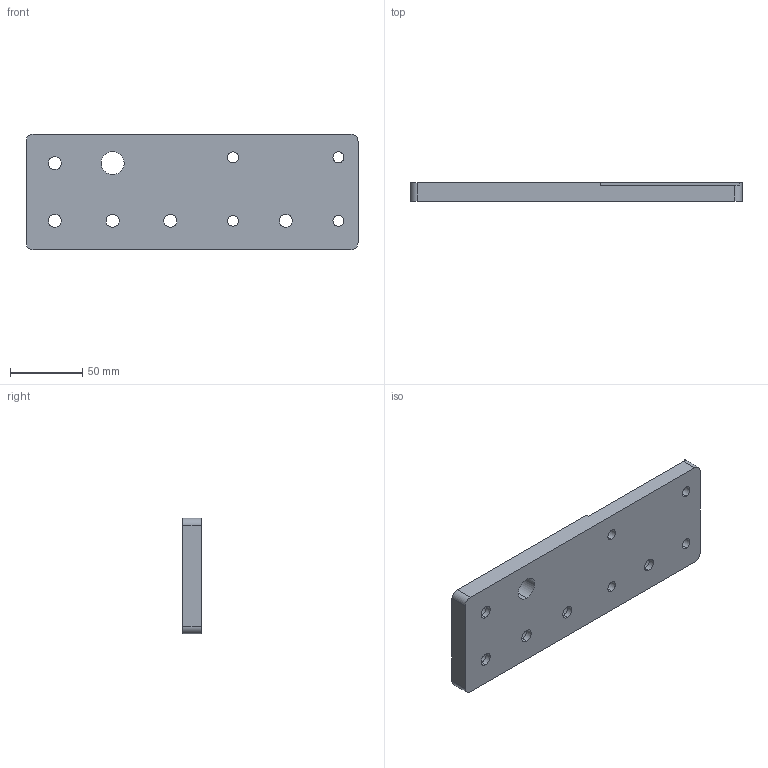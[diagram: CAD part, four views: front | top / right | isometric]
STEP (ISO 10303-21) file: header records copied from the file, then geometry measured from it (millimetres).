
FILE_DESCRIPTION (( 'STEP AP203' ), '1' );
FILE_NAME ('DFB0880230-L.STEP', '2020-10-14T02:42:34', ( '' ), ( '' ), 'SwSTEP 2.0', 'SolidWorks 2017', '' );
FILE_SCHEMA (( 'CONFIG_CONTROL_DESIGN' ));
Length unit declared in the file: millimetre
Products named in the file (1): DFB0880230-L
Bounding box: 230 x 13 x 80 mm (x, y, z)
Volume: 212233.2 mm3; surface area: 47755.7 mm2
Topology: 1 solids, 1 shells, 49 faces, 126 edges, 84 vertices
Faces by surface type: cylinder 34, plane 15
Entity records: 1646 total; most frequent: DIRECTION 295, CARTESIAN_POINT 260, ORIENTED_EDGE 252, EDGE_CURVE 126, AXIS2_PLACEMENT_3D 119, VERTEX_POINT 84, EDGE_LOOP 74, CIRCLE 69
